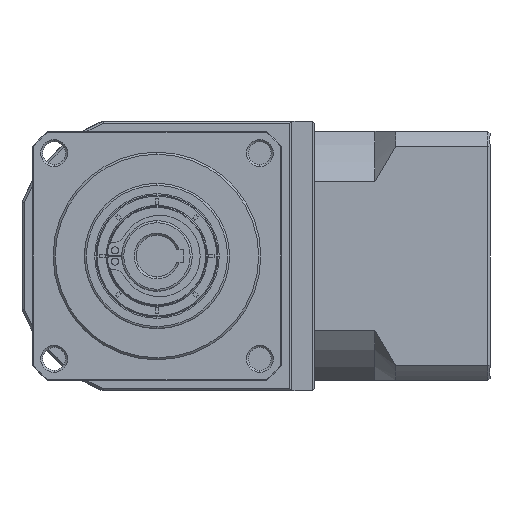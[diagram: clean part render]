
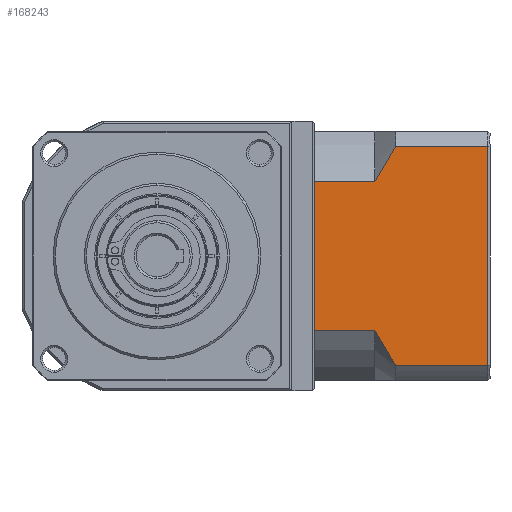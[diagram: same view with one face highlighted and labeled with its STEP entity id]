
A CAD part, left-side view. The second image highlights one B-rep face of the part: STEP entity #168243.
In plain terms, the highlighted planar face has unit normal (-1, 0, 0).
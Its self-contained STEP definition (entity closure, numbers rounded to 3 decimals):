
#5251 = PLANE ( 'NONE',  #101092 ) ;
#6542 = B_SPLINE_CURVE_WITH_KNOTS ( 'NONE', 3,
 ( #155632, #88186, #7138, #101777, #20765, #115345 ),
 .UNSPECIFIED., .F., .F.,
 ( 4, 2, 4 ),
 ( 0.1, 0.104, 0.109 ),
 .UNSPECIFIED. ) ;
#7138 = CARTESIAN_POINT ( 'NONE',  ( -155.404, -6.789, 5.281 ) ) ;
#10728 = DIRECTION ( 'NONE',  ( 0., 0., -1. ) ) ;
#11371 = VERTEX_POINT ( 'NONE', #23976 ) ;
#13073 = EDGE_CURVE ( 'NONE', #101176, #175128, #13184, .T. ) ;
#13184 = LINE ( 'NONE', #150260, #116811 ) ;
#13971 = CARTESIAN_POINT ( 'NONE',  ( -155.404, -32.438, -0.267 ) ) ;
#15838 = DIRECTION ( 'NONE',  ( 0., -1., 0. ) ) ;
#20765 = CARTESIAN_POINT ( 'NONE',  ( -155.404, -9.337, 1.096 ) ) ;
#21371 = B_SPLINE_CURVE_WITH_KNOTS ( 'NONE', 3,
 ( #122209, #163077, #28209, #122777, #41762, #136475 ),
 .UNSPECIFIED., .F., .F.,
 ( 4, 2, 4 ),
 ( 0.052, 0.057, 0.062 ),
 .UNSPECIFIED. ) ;
#21853 = DIRECTION ( 'NONE',  ( 0., 1., 0. ) ) ;
#23976 = CARTESIAN_POINT ( 'NONE',  ( -155.404, -10.238, 52.648 ) ) ;
#25554 = VERTEX_POINT ( 'NONE', #172608 ) ;
#28209 = CARTESIAN_POINT ( 'NONE',  ( -155.404, -8.465, 49.91 ) ) ;
#28414 = ORIENTED_EDGE ( 'NONE', *, *, #13073, .F. ) ;
#41762 = CARTESIAN_POINT ( 'NONE',  ( -155.404, -5.986, 45.671 ) ) ;
#41905 = ORIENTED_EDGE ( 'NONE', *, *, #125431, .T. ) ;
#43342 = CARTESIAN_POINT ( 'NONE',  ( -155.404, -10.238, -0.267 ) ) ;
#47227 = CARTESIAN_POINT ( 'NONE',  ( -155.404, 9.262, 8.163 ) ) ;
#48045 = ORIENTED_EDGE ( 'NONE', *, *, #52972, .F. ) ;
#52972 = EDGE_CURVE ( 'NONE', #11371, #25554, #173309, .T. ) ;
#56832 = DIRECTION ( 'NONE',  ( 0., 1., 0. ) ) ;
#58147 = CARTESIAN_POINT ( 'NONE',  ( -155.404, -5.238, 8.163 ) ) ;
#60159 = ORIENTED_EDGE ( 'NONE', *, *, #131947, .T. ) ;
#66818 = CARTESIAN_POINT ( 'NONE',  ( -155.404, -32.438, -3.809 ) ) ;
#67607 = VERTEX_POINT ( 'NONE', #13971 ) ;
#67995 = CARTESIAN_POINT ( 'NONE',  ( -155.404, -5.238, 52.648 ) ) ;
#69163 = CARTESIAN_POINT ( 'NONE',  ( -155.404, 9.262, 44.218 ) ) ;
#69747 = LINE ( 'NONE', #66818, #137454 ) ;
#69785 = VECTOR ( 'NONE', #56832, 1000. ) ;
#72390 = EDGE_CURVE ( 'NONE', #67607, #143556, #105701, .T. ) ;
#73290 = DIRECTION ( 'NONE',  ( 1., 0., 0. ) ) ;
#73535 = ORIENTED_EDGE ( 'NONE', *, *, #78867, .T. ) ;
#74290 = EDGE_CURVE ( 'NONE', #98121, #133050, #90000, .T. ) ;
#74982 = ORIENTED_EDGE ( 'NONE', *, *, #72390, .F. ) ;
#75356 = VECTOR ( 'NONE', #10728, 1000. ) ;
#78849 = ORIENTED_EDGE ( 'NONE', *, *, #74290, .F. ) ;
#78867 = EDGE_CURVE ( 'NONE', #11371, #175128, #21371, .T. ) ;
#79642 = LINE ( 'NONE', #172809, #75356 ) ;
#80351 = DIRECTION ( 'NONE',  ( 0., 0., 1. ) ) ;
#88186 = CARTESIAN_POINT ( 'NONE',  ( -155.404, -5.988, 6.706 ) ) ;
#90000 = LINE ( 'NONE', #116444, #125936 ) ;
#98121 = VERTEX_POINT ( 'NONE', #58147 ) ;
#101092 = AXIS2_PLACEMENT_3D ( 'NONE', #154332, #73290, #167939 ) ;
#101176 = VERTEX_POINT ( 'NONE', #69163 ) ;
#101350 = VECTOR ( 'NONE', #15838, 1000. ) ;
#101777 = CARTESIAN_POINT ( 'NONE',  ( -155.404, -8.463, 2.476 ) ) ;
#105397 = FACE_OUTER_BOUND ( 'NONE', #111212, .T. ) ;
#105701 = LINE ( 'NONE', #124143, #69785 ) ;
#111212 = EDGE_LOOP ( 'NONE', ( #74982, #41905, #48045, #73535, #28414, #60159, #78849, #121045 ) ) ;
#115345 = CARTESIAN_POINT ( 'NONE',  ( -155.404, -10.238, -0.267 ) ) ;
#116444 = CARTESIAN_POINT ( 'NONE',  ( -155.404, -5.238, 8.163 ) ) ;
#116811 = VECTOR ( 'NONE', #164468, 1000. ) ;
#121045 = ORIENTED_EDGE ( 'NONE', *, *, #164740, .T. ) ;
#122209 = CARTESIAN_POINT ( 'NONE',  ( -155.404, -10.238, 52.648 ) ) ;
#122777 = CARTESIAN_POINT ( 'NONE',  ( -155.404, -6.789, 47.102 ) ) ;
#124143 = CARTESIAN_POINT ( 'NONE',  ( -155.404, -5.238, -0.267 ) ) ;
#125431 = EDGE_CURVE ( 'NONE', #67607, #25554, #69747, .T. ) ;
#125936 = VECTOR ( 'NONE', #21853, 1000. ) ;
#131947 = EDGE_CURVE ( 'NONE', #101176, #133050, #79642, .T. ) ;
#133050 = VERTEX_POINT ( 'NONE', #47227 ) ;
#136475 = CARTESIAN_POINT ( 'NONE',  ( -155.404, -5.238, 44.218 ) ) ;
#137454 = VECTOR ( 'NONE', #80351, 1000. ) ;
#141665 = CARTESIAN_POINT ( 'NONE',  ( -155.404, -5.238, 44.218 ) ) ;
#143556 = VERTEX_POINT ( 'NONE', #43342 ) ;
#150260 = CARTESIAN_POINT ( 'NONE',  ( -155.404, -5.238, 44.218 ) ) ;
#154332 = CARTESIAN_POINT ( 'NONE',  ( -155.404, -32.938, -3.809 ) ) ;
#155632 = CARTESIAN_POINT ( 'NONE',  ( -155.404, -5.238, 8.163 ) ) ;
#163077 = CARTESIAN_POINT ( 'NONE',  ( -155.404, -9.338, 51.288 ) ) ;
#164468 = DIRECTION ( 'NONE',  ( 0., -1., 0. ) ) ;
#164740 = EDGE_CURVE ( 'NONE', #98121, #143556, #6542, .T. ) ;
#167939 = DIRECTION ( 'NONE',  ( 0., 1., 0. ) ) ;
#168243 = ADVANCED_FACE ( 'NONE', ( #105397 ), #5251, .F. ) ;
#172608 = CARTESIAN_POINT ( 'NONE',  ( -155.404, -32.438, 52.648 ) ) ;
#172809 = CARTESIAN_POINT ( 'NONE',  ( -155.404, 9.262, -3.809 ) ) ;
#173309 = LINE ( 'NONE', #67995, #101350 ) ;
#175128 = VERTEX_POINT ( 'NONE', #141665 ) ;
